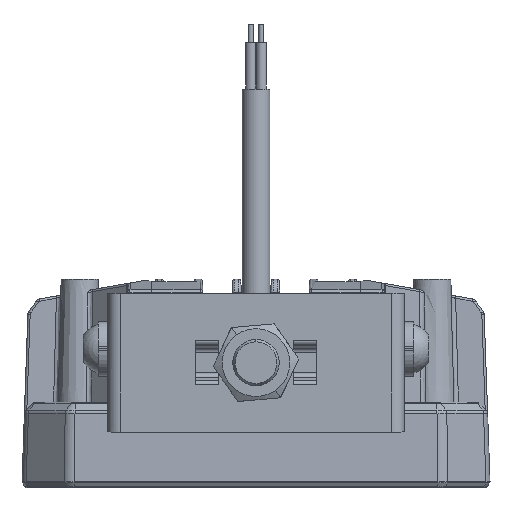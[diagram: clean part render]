
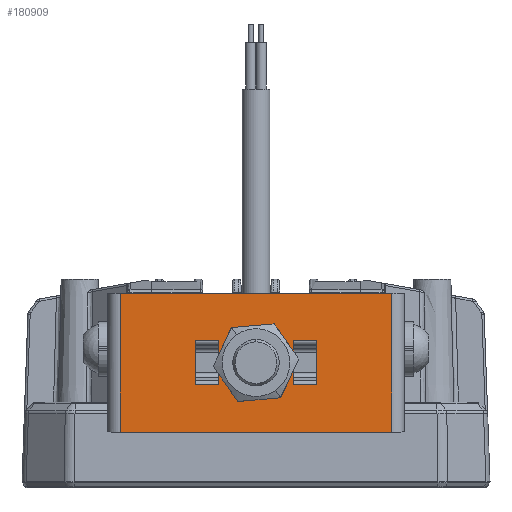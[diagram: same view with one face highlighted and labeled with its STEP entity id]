
A CAD part, front view. The second image highlights one B-rep face of the part: STEP entity #180909.
In plain terms, the highlighted planar face has unit normal (0, -1, 0) as drawn and (0, 0, -1) by its records, which use the part's own axes.
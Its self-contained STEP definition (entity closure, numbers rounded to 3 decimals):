
#35599 = ORIENTED_EDGE ( 'NONE', *, *, #173507, .F. ) ;
#35604 = ORIENTED_EDGE ( 'NONE', *, *, #173478, .F. ) ;
#35609 = ORIENTED_EDGE ( 'NONE', *, *, #173508, .T. ) ;
#35613 = ORIENTED_EDGE ( 'NONE', *, *, #173509, .F. ) ;
#35618 = ORIENTED_EDGE ( 'NONE', *, *, #173510, .F. ) ;
#35622 = ORIENTED_EDGE ( 'NONE', *, *, #173505, .F. ) ;
#35626 = ORIENTED_EDGE ( 'NONE', *, *, #173511, .T. ) ;
#35631 = ORIENTED_EDGE ( 'NONE', *, *, #173474, .T. ) ;
#35636 = ORIENTED_EDGE ( 'NONE', *, *, #173512, .F. ) ;
#35640 = ORIENTED_EDGE ( 'NONE', *, *, #173513, .T. ) ;
#35646 = ORIENTED_EDGE ( 'NONE', *, *, #173514, .F. ) ;
#35650 = ORIENTED_EDGE ( 'NONE', *, *, #173386, .T. ) ;
#35654 = ORIENTED_EDGE ( 'NONE', *, *, #173383, .F. ) ;
#35659 = ORIENTED_EDGE ( 'NONE', *, *, #173387, .T. ) ;
#35664 = ORIENTED_EDGE ( 'NONE', *, *, #173389, .F. ) ;
#35669 = ORIENTED_EDGE ( 'NONE', *, *, #173376, .T. ) ;
#53832 = VECTOR ( 'NONE', #161194, 1000. ) ;
#97038 = VERTEX_POINT ( 'NONE', #131219 ) ;
#97052 = VERTEX_POINT ( 'NONE', #131226 ) ;
#97122 = VERTEX_POINT ( 'NONE', #131267 ) ;
#97162 = VERTEX_POINT ( 'NONE', #133419 ) ;
#97201 = VERTEX_POINT ( 'NONE', #133447 ) ;
#97232 = VERTEX_POINT ( 'NONE', #133469 ) ;
#97249 = VERTEX_POINT ( 'NONE', #133483 ) ;
#97255 = VERTEX_POINT ( 'NONE', #133488 ) ;
#97472 = VERTEX_POINT ( 'NONE', #133649 ) ;
#97498 = VERTEX_POINT ( 'NONE', #133668 ) ;
#97506 = VERTEX_POINT ( 'NONE', #133673 ) ;
#97512 = VERTEX_POINT ( 'NONE', #133678 ) ;
#97835 = VERTEX_POINT ( 'NONE', #133917 ) ;
#98711 = VERTEX_POINT ( 'NONE', #134425 ) ;
#99468 = VERTEX_POINT ( 'NONE', #134861 ) ;
#99512 = VERTEX_POINT ( 'NONE', #134889 ) ;
#116746 = LINE ( 'NONE', #150956, #116792 ) ;
#116792 = VECTOR ( 'NONE', #150963, 1000. ) ;
#116812 = LINE ( 'NONE', #150995, #116851 ) ;
#116819 = LINE ( 'NONE', #151024, #116827 ) ;
#116827 = VECTOR ( 'NONE', #151032, 1000. ) ;
#116836 = LINE ( 'NONE', #151060, #116844 ) ;
#116844 = VECTOR ( 'NONE', #151067, 1000. ) ;
#116851 = VECTOR ( 'NONE', #151069, 1000. ) ;
#116853 = LINE ( 'NONE', #151094, #116862 ) ;
#116862 = VECTOR ( 'NONE', #151100, 1000. ) ;
#117261 = CIRCLE ( 'NONE', #138395, 5.15 ) ;
#117271 = LINE ( 'NONE', #160956, #117288 ) ;
#117288 = VECTOR ( 'NONE', #160969, 1000. ) ;
#117423 = LINE ( 'NONE', #161151, #117431 ) ;
#117428 = LINE ( 'NONE', #161146, #117454 ) ;
#117431 = VECTOR ( 'NONE', #161159, 1000. ) ;
#117435 = LINE ( 'NONE', #161172, #117443 ) ;
#117441 = LINE ( 'NONE', #161179, #117447 ) ;
#117443 = VECTOR ( 'NONE', #161176, 1000. ) ;
#117445 = LINE ( 'NONE', #161106, #53832 ) ;
#117447 = VECTOR ( 'NONE', #161184, 1000. ) ;
#117454 = VECTOR ( 'NONE', #161187, 1000. ) ;
#117458 = CIRCLE ( 'NONE', #138406, 5.15 ) ;
#131219 = CARTESIAN_POINT ( 'NONE',  ( 8.1, 4.7, -2. ) ) ;
#131226 = CARTESIAN_POINT ( 'NONE',  ( 8.1, -4.7, -2. ) ) ;
#131267 = CARTESIAN_POINT ( 'NONE',  ( 29.261, 14.939, -2. ) ) ;
#133419 = CARTESIAN_POINT ( 'NONE',  ( -13.1, 4.7, -2. ) ) ;
#133447 = CARTESIAN_POINT ( 'NONE',  ( 29.261, -15., -2. ) ) ;
#133469 = CARTESIAN_POINT ( 'NONE',  ( 13.1, 4.7, -2. ) ) ;
#133483 = CARTESIAN_POINT ( 'NONE',  ( -8.1, -4.7, -2. ) ) ;
#133488 = CARTESIAN_POINT ( 'NONE',  ( -13.1, -4.7, -2. ) ) ;
#133649 = CARTESIAN_POINT ( 'NONE',  ( -8.1, 4.7, -2. ) ) ;
#133668 = CARTESIAN_POINT ( 'NONE',  ( -29.261, 14.939, -2. ) ) ;
#133673 = CARTESIAN_POINT ( 'NONE',  ( 27.5, 15., -2. ) ) ;
#133678 = CARTESIAN_POINT ( 'NONE',  ( -27.5, 15., -2. ) ) ;
#133917 = CARTESIAN_POINT ( 'NONE',  ( 13.1, -4.7, -2. ) ) ;
#134425 = CARTESIAN_POINT ( 'NONE',  ( -29.261, -15., -2. ) ) ;
#134861 = CARTESIAN_POINT ( 'NONE',  ( 5.15, 0., -2. ) ) ;
#134889 = CARTESIAN_POINT ( 'NONE',  ( -5.15, 0., -2. ) ) ;
#138395 = AXIS2_PLACEMENT_3D ( 'NONE', #160940, #160943, #160944 ) ;
#138406 = AXIS2_PLACEMENT_3D ( 'NONE', #161208, #161211, #161213 ) ;
#143684 = AXIS2_PLACEMENT_3D ( 'NONE', #239980, #239962, #239991 ) ;
#150956 = CARTESIAN_POINT ( 'NONE',  ( -33.796, -4.7, -2. ) ) ;
#150963 = DIRECTION ( 'NONE',  ( 1., 0., 0. ) ) ;
#150995 = CARTESIAN_POINT ( 'NONE',  ( -33.796, 4.7, -2. ) ) ;
#151024 = CARTESIAN_POINT ( 'NONE',  ( -8.1, 4., -2. ) ) ;
#151032 = DIRECTION ( 'NONE',  ( 0., -1., 0. ) ) ;
#151060 = CARTESIAN_POINT ( 'NONE',  ( -33.796, 4.7, -2. ) ) ;
#151067 = DIRECTION ( 'NONE',  ( -1., 0., 0. ) ) ;
#151069 = DIRECTION ( 'NONE',  ( -1., 0., 0. ) ) ;
#151094 = CARTESIAN_POINT ( 'NONE',  ( -13.1, 4., -2. ) ) ;
#151100 = DIRECTION ( 'NONE',  ( 0., 1., 0. ) ) ;
#160940 = CARTESIAN_POINT ( 'NONE',  ( 0., 0., -2. ) ) ;
#160943 = DIRECTION ( 'NONE',  ( 0., 0., 1. ) ) ;
#160944 = DIRECTION ( 'NONE',  ( 1., 0., 0. ) ) ;
#160956 = CARTESIAN_POINT ( 'NONE',  ( -27.5, -15., -2. ) ) ;
#160969 = DIRECTION ( 'NONE',  ( 1., 0., 0. ) ) ;
#161106 = CARTESIAN_POINT ( 'NONE',  ( -27.5, 15., -2. ) ) ;
#161146 = CARTESIAN_POINT ( 'NONE',  ( -27.5, 15., -2. ) ) ;
#161151 = CARTESIAN_POINT ( 'NONE',  ( 27.5, 15., -2. ) ) ;
#161159 = DIRECTION ( 'NONE',  ( -0.999, 0.035, 0. ) ) ;
#161172 = CARTESIAN_POINT ( 'NONE',  ( 29.261, -145.317, -2. ) ) ;
#161176 = DIRECTION ( 'NONE',  ( 0., 1., 0. ) ) ;
#161179 = CARTESIAN_POINT ( 'NONE',  ( -29.261, -145.317, -2. ) ) ;
#161181 = DIRECTION ( 'NONE',  ( 0., 1., 0. ) ) ;
#161184 = DIRECTION ( 'NONE',  ( 0., 1., 0. ) ) ;
#161187 = DIRECTION ( 'NONE',  ( -0.999, -0.035, 0. ) ) ;
#161191 = CARTESIAN_POINT ( 'NONE',  ( 8.1, 4., -2. ) ) ;
#161194 = DIRECTION ( 'NONE',  ( -1., 0., 0. ) ) ;
#161208 = CARTESIAN_POINT ( 'NONE',  ( 0., 0., -2. ) ) ;
#161211 = DIRECTION ( 'NONE',  ( 0., 0., 1. ) ) ;
#161213 = DIRECTION ( 'NONE',  ( 1., 0., 0. ) ) ;
#161217 = CARTESIAN_POINT ( 'NONE',  ( -33.796, -4.7, -2. ) ) ;
#161221 = DIRECTION ( 'NONE',  ( 1., 0., 0. ) ) ;
#161224 = CARTESIAN_POINT ( 'NONE',  ( 13.1, 4., -2. ) ) ;
#161228 = DIRECTION ( 'NONE',  ( 0., -1., 0. ) ) ;
#163832 = LINE ( 'NONE', #161191, #163836 ) ;
#163836 = VECTOR ( 'NONE', #161181, 1000. ) ;
#163839 = LINE ( 'NONE', #161224, #163852 ) ;
#163842 = LINE ( 'NONE', #161217, #163846 ) ;
#163846 = VECTOR ( 'NONE', #161221, 1000. ) ;
#163852 = VECTOR ( 'NONE', #161228, 1000. ) ;
#167663 = FACE_BOUND ( 'NONE', #304787, .T. ) ;
#167672 = FACE_OUTER_BOUND ( 'NONE', #304611, .T. ) ;
#167689 = FACE_BOUND ( 'NONE', #303207, .T. ) ;
#167693 = FACE_BOUND ( 'NONE', #303224, .T. ) ;
#173376 = EDGE_CURVE ( 'NONE', #97255, #97249, #116746, .T. ) ;
#173383 = EDGE_CURVE ( 'NONE', #97472, #97249, #116819, .T. ) ;
#173386 = EDGE_CURVE ( 'NONE', #97232, #97038, #116836, .T. ) ;
#173387 = EDGE_CURVE ( 'NONE', #97472, #97162, #116812, .T. ) ;
#173389 = EDGE_CURVE ( 'NONE', #97255, #97162, #116853, .T. ) ;
#173474 = EDGE_CURVE ( 'NONE', #99512, #99468, #117261, .T. ) ;
#173478 = EDGE_CURVE ( 'NONE', #98711, #97201, #117271, .T. ) ;
#173505 = EDGE_CURVE ( 'NONE', #97122, #97506, #117423, .T. ) ;
#173507 = EDGE_CURVE ( 'NONE', #97201, #97122, #117435, .T. ) ;
#173508 = EDGE_CURVE ( 'NONE', #98711, #97498, #117441, .T. ) ;
#173509 = EDGE_CURVE ( 'NONE', #97512, #97498, #117428, .T. ) ;
#173510 = EDGE_CURVE ( 'NONE', #97506, #97512, #117445, .T. ) ;
#173511 = EDGE_CURVE ( 'NONE', #99468, #99512, #117458, .T. ) ;
#173512 = EDGE_CURVE ( 'NONE', #97052, #97038, #163832, .T. ) ;
#173513 = EDGE_CURVE ( 'NONE', #97052, #97835, #163842, .T. ) ;
#173514 = EDGE_CURVE ( 'NONE', #97232, #97835, #163839, .T. ) ;
#180909 = ADVANCED_FACE ( 'NONE', ( #167672, #167693, #167663, #167689 ), #239987, .F. ) ;
#239962 = DIRECTION ( 'NONE',  ( 0., 0., 1. ) ) ;
#239980 = CARTESIAN_POINT ( 'NONE',  ( -33.796, -145.317, -2. ) ) ;
#239987 = PLANE ( 'NONE',  #143684 ) ;
#239991 = DIRECTION ( 'NONE',  ( 1., 0., 0. ) ) ;
#303207 = EDGE_LOOP ( 'NONE', ( #35654, #35659, #35664, #35669 ) ) ;
#303224 = EDGE_LOOP ( 'NONE', ( #35626, #35631 ) ) ;
#304611 = EDGE_LOOP ( 'NONE', ( #35599, #35604, #35609, #35613, #35618, #35622 ) ) ;
#304787 = EDGE_LOOP ( 'NONE', ( #35636, #35640, #35646, #35650 ) ) ;
